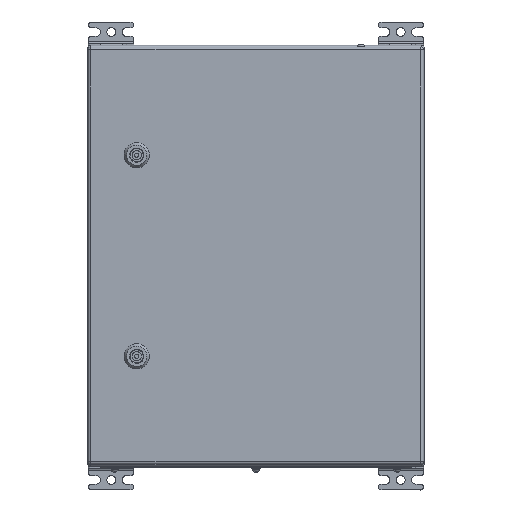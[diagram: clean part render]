
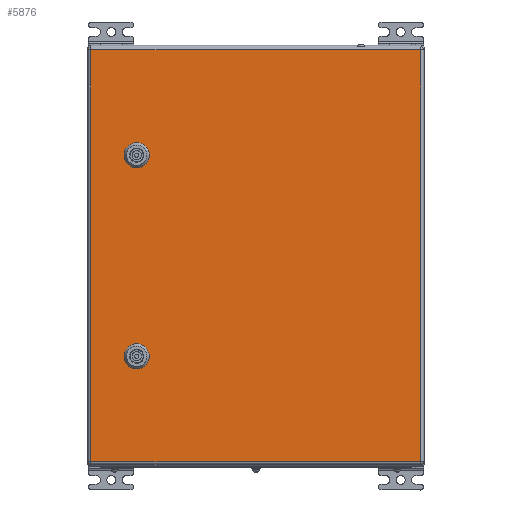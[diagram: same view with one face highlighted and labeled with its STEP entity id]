
A CAD part, top view. The second image highlights one B-rep face of the part: STEP entity #5876.
In plain terms, the highlighted planar face has unit normal (0, 0, 1).
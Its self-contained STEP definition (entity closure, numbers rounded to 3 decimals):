
#5876=ADVANCED_FACE('',(#13910,#13912,#13914),#13916,.T.);
#13910=FACE_BOUND('',#13911,.T.);
#13911=EDGE_LOOP('',(#36457,#36458,#36459,#36460));
#13912=FACE_BOUND('',#13913,.T.);
#13913=EDGE_LOOP('',(#36461,#36462,#36463,#36464,#36465,#36466,#36467,#36468));
#13914=FACE_BOUND('',#13915,.T.);
#13915=EDGE_LOOP('',(#36469,#36470,#36471,#36472,#36473,#36474,#36475,#36476));
#13916=PLANE('',#13917);
#13917=AXIS2_PLACEMENT_3D('',#13918,#13919,#13920);
#13918=CARTESIAN_POINT('',(0.,0.,1.5));
#13919=DIRECTION('',(0.,0.,1.));
#13920=DIRECTION('',(1.,0.,0.));
#36457=ORIENTED_EDGE('',*,*,#40812,.T.);
#36458=ORIENTED_EDGE('',*,*,#40813,.T.);
#36459=ORIENTED_EDGE('',*,*,#40814,.T.);
#36460=ORIENTED_EDGE('',*,*,#40815,.T.);
#36461=ORIENTED_EDGE('',*,*,#40780,.T.);
#36462=ORIENTED_EDGE('',*,*,#40794,.T.);
#36463=ORIENTED_EDGE('',*,*,#40792,.T.);
#36464=ORIENTED_EDGE('',*,*,#40790,.T.);
#36465=ORIENTED_EDGE('',*,*,#40788,.T.);
#36466=ORIENTED_EDGE('',*,*,#40786,.T.);
#36467=ORIENTED_EDGE('',*,*,#40784,.T.);
#36468=ORIENTED_EDGE('',*,*,#40782,.T.);
#36469=ORIENTED_EDGE('',*,*,#40764,.T.);
#36470=ORIENTED_EDGE('',*,*,#40778,.T.);
#36471=ORIENTED_EDGE('',*,*,#40776,.T.);
#36472=ORIENTED_EDGE('',*,*,#40774,.T.);
#36473=ORIENTED_EDGE('',*,*,#40772,.T.);
#36474=ORIENTED_EDGE('',*,*,#40770,.T.);
#36475=ORIENTED_EDGE('',*,*,#40768,.T.);
#36476=ORIENTED_EDGE('',*,*,#40766,.T.);
#40764=EDGE_CURVE('',#44328,#44326,#44329,.T.);
#40766=EDGE_CURVE('',#44331,#44328,#44332,.F.);
#40768=EDGE_CURVE('',#44334,#44331,#44335,.T.);
#40770=EDGE_CURVE('',#44337,#44334,#44338,.F.);
#40772=EDGE_CURVE('',#44340,#44337,#44341,.T.);
#40774=EDGE_CURVE('',#44343,#44340,#44344,.F.);
#40776=EDGE_CURVE('',#44346,#44343,#44347,.T.);
#40778=EDGE_CURVE('',#44326,#44346,#44349,.F.);
#40780=EDGE_CURVE('',#44352,#44350,#44353,.T.);
#40782=EDGE_CURVE('',#44355,#44352,#44356,.F.);
#40784=EDGE_CURVE('',#44358,#44355,#44359,.T.);
#40786=EDGE_CURVE('',#44361,#44358,#44362,.F.);
#40788=EDGE_CURVE('',#44364,#44361,#44365,.T.);
#40790=EDGE_CURVE('',#44367,#44364,#44368,.F.);
#40792=EDGE_CURVE('',#44370,#44367,#44371,.T.);
#40794=EDGE_CURVE('',#44350,#44370,#44373,.F.);
#40812=EDGE_CURVE('',#44400,#44401,#44402,.T.);
#40813=EDGE_CURVE('',#44401,#44403,#44404,.T.);
#40814=EDGE_CURVE('',#44403,#44405,#44406,.T.);
#40815=EDGE_CURVE('',#44405,#44400,#44407,.T.);
#44326=VERTEX_POINT('',#53827);
#44328=VERTEX_POINT('',#53831);
#44329=CIRCLE('',#53832,11.25);
#44331=VERTEX_POINT('',#53839);
#44332=LINE('',#53840,#53841);
#44334=VERTEX_POINT('',#53846);
#44335=CIRCLE('',#53847,11.25);
#44337=VERTEX_POINT('',#53854);
#44338=LINE('',#53855,#53856);
#44340=VERTEX_POINT('',#53861);
#44341=CIRCLE('',#53862,11.25);
#44343=VERTEX_POINT('',#53869);
#44344=LINE('',#53870,#53871);
#44346=VERTEX_POINT('',#53876);
#44347=CIRCLE('',#53877,11.25);
#44349=LINE('',#53884,#53885);
#44350=VERTEX_POINT('',#53887);
#44352=VERTEX_POINT('',#53891);
#44353=CIRCLE('',#53892,11.25);
#44355=VERTEX_POINT('',#53899);
#44356=LINE('',#53900,#53901);
#44358=VERTEX_POINT('',#53906);
#44359=CIRCLE('',#53907,11.25);
#44361=VERTEX_POINT('',#53914);
#44362=LINE('',#53915,#53916);
#44364=VERTEX_POINT('',#53921);
#44365=CIRCLE('',#53922,11.25);
#44367=VERTEX_POINT('',#53929);
#44368=LINE('',#53930,#53931);
#44370=VERTEX_POINT('',#53936);
#44371=CIRCLE('',#53937,11.25);
#44373=LINE('',#53944,#53945);
#44400=VERTEX_POINT('',#54008);
#44401=VERTEX_POINT('',#54009);
#44402=LINE('',#54010,#54011);
#44403=VERTEX_POINT('',#54013);
#44404=LINE('',#54014,#54015);
#44405=VERTEX_POINT('',#54017);
#44406=LINE('',#54018,#54019);
#44407=LINE('',#54021,#54022);
#53827=CARTESIAN_POINT('',(-129.955,-44.4,1.5));
#53831=CARTESIAN_POINT('',(-135.1,-49.545,1.5));
#53832=AXIS2_PLACEMENT_3D('',#53833,#53834,#53835);
#53833=CARTESIAN_POINT('',(-125.,-54.5,1.5));
#53834=DIRECTION('',(0.,0.,-1.));
#53835=DIRECTION('',(-0.898,0.44,0.));
#53839=CARTESIAN_POINT('',(-135.1,-59.455,1.5));
#53840=CARTESIAN_POINT('',(-135.1,-49.545,1.5));
#53841=VECTOR('',#53842,1.);
#53842=DIRECTION('',(0.,-1.,0.));
#53846=CARTESIAN_POINT('',(-129.955,-64.6,1.5));
#53847=AXIS2_PLACEMENT_3D('',#53848,#53849,#53850);
#53848=CARTESIAN_POINT('',(-125.,-54.5,1.5));
#53849=DIRECTION('',(0.,0.,-1.));
#53850=DIRECTION('',(-0.44,-0.898,0.));
#53854=CARTESIAN_POINT('',(-120.045,-64.6,1.5));
#53855=CARTESIAN_POINT('',(-129.955,-64.6,1.5));
#53856=VECTOR('',#53857,1.);
#53857=DIRECTION('',(1.,0.,0.));
#53861=CARTESIAN_POINT('',(-114.9,-59.455,1.5));
#53862=AXIS2_PLACEMENT_3D('',#53863,#53864,#53865);
#53863=CARTESIAN_POINT('',(-125.,-54.5,1.5));
#53864=DIRECTION('',(0.,0.,-1.));
#53865=DIRECTION('',(0.898,-0.44,0.));
#53869=CARTESIAN_POINT('',(-114.9,-49.545,1.5));
#53870=CARTESIAN_POINT('',(-114.9,-59.455,1.5));
#53871=VECTOR('',#53872,1.);
#53872=DIRECTION('',(0.,1.,0.));
#53876=CARTESIAN_POINT('',(-120.045,-44.4,1.5));
#53877=AXIS2_PLACEMENT_3D('',#53878,#53879,#53880);
#53878=CARTESIAN_POINT('',(-125.,-54.5,1.5));
#53879=DIRECTION('',(0.,0.,-1.));
#53880=DIRECTION('',(0.44,0.898,0.));
#53884=CARTESIAN_POINT('',(-120.045,-44.4,1.5));
#53885=VECTOR('',#53886,1.);
#53886=DIRECTION('',(-1.,0.,0.));
#53887=CARTESIAN_POINT('',(-368.955,-44.4,1.5));
#53891=CARTESIAN_POINT('',(-374.1,-49.545,1.5));
#53892=AXIS2_PLACEMENT_3D('',#53893,#53894,#53895);
#53893=CARTESIAN_POINT('',(-364.,-54.5,1.5));
#53894=DIRECTION('',(0.,0.,-1.));
#53895=DIRECTION('',(-0.898,0.44,0.));
#53899=CARTESIAN_POINT('',(-374.1,-59.455,1.5));
#53900=CARTESIAN_POINT('',(-374.1,-49.545,1.5));
#53901=VECTOR('',#53902,1.);
#53902=DIRECTION('',(0.,-1.,0.));
#53906=CARTESIAN_POINT('',(-368.955,-64.6,1.5));
#53907=AXIS2_PLACEMENT_3D('',#53908,#53909,#53910);
#53908=CARTESIAN_POINT('',(-364.,-54.5,1.5));
#53909=DIRECTION('',(0.,0.,-1.));
#53910=DIRECTION('',(-0.44,-0.898,0.));
#53914=CARTESIAN_POINT('',(-359.045,-64.6,1.5));
#53915=CARTESIAN_POINT('',(-368.955,-64.6,1.5));
#53916=VECTOR('',#53917,1.);
#53917=DIRECTION('',(1.,0.,0.));
#53921=CARTESIAN_POINT('',(-353.9,-59.455,1.5));
#53922=AXIS2_PLACEMENT_3D('',#53923,#53924,#53925);
#53923=CARTESIAN_POINT('',(-364.,-54.5,1.5));
#53924=DIRECTION('',(0.,0.,-1.));
#53925=DIRECTION('',(0.898,-0.44,0.));
#53929=CARTESIAN_POINT('',(-353.9,-49.545,1.5));
#53930=CARTESIAN_POINT('',(-353.9,-59.455,1.5));
#53931=VECTOR('',#53932,1.);
#53932=DIRECTION('',(0.,1.,0.));
#53936=CARTESIAN_POINT('',(-359.045,-44.4,1.5));
#53937=AXIS2_PLACEMENT_3D('',#53938,#53939,#53940);
#53938=CARTESIAN_POINT('',(-364.,-54.5,1.5));
#53939=DIRECTION('',(0.,0.,-1.));
#53940=DIRECTION('',(0.44,0.898,0.));
#53944=CARTESIAN_POINT('',(-359.045,-44.4,1.5));
#53945=VECTOR('',#53946,1.);
#53946=DIRECTION('',(-1.,0.,0.));
#54008=CARTESIAN_POINT('',(-489.,0.,1.5));
#54009=CARTESIAN_POINT('',(-489.,-392.,1.5));
#54010=CARTESIAN_POINT('',(-489.,0.,1.5));
#54011=VECTOR('',#54012,1.);
#54012=DIRECTION('',(0.,-1.,0.));
#54013=CARTESIAN_POINT('',(0.,-392.,1.5));
#54014=CARTESIAN_POINT('',(-489.,-392.,1.5));
#54015=VECTOR('',#54016,1.);
#54016=DIRECTION('',(1.,0.,0.));
#54017=CARTESIAN_POINT('',(0.,0.,1.5));
#54018=CARTESIAN_POINT('',(0.,-392.,1.5));
#54019=VECTOR('',#54020,1.);
#54020=DIRECTION('',(0.,1.,0.));
#54021=CARTESIAN_POINT('',(0.,0.,1.5));
#54022=VECTOR('',#54023,1.);
#54023=DIRECTION('',(-1.,0.,0.));
